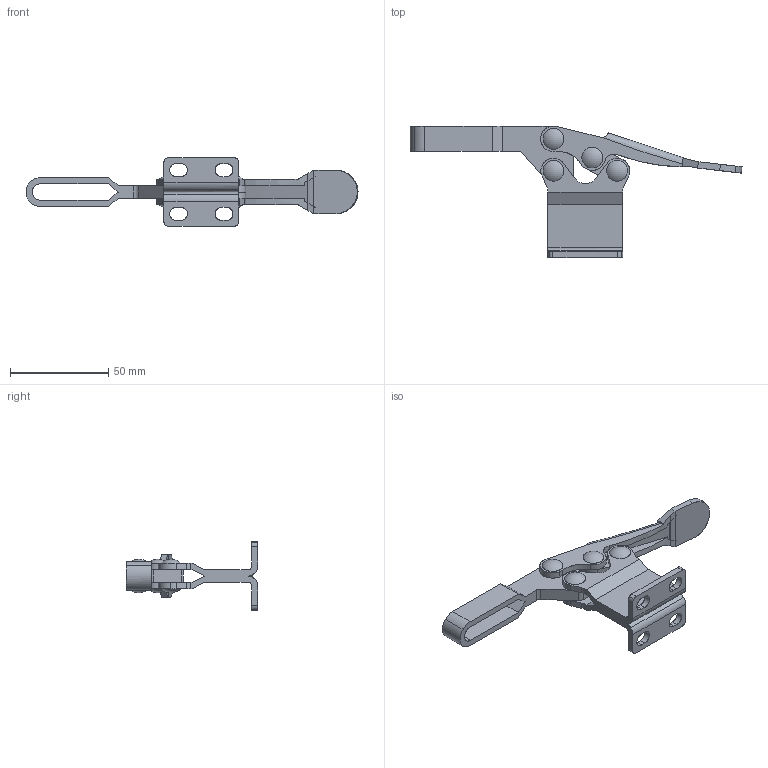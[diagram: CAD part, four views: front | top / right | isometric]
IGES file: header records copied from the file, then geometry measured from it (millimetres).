
Start section: Comment
Global section: file name: 225dhb.igs; native system:  By Spatial Corp.; preprocessor: XPlus PS/IGES 3.0; author: Author; organization: Title; date: 20050217.081845; units: inch
Bounding box: 168.6 x 66.9 x 35 mm (x, y, z)
Surface area: 23914.1 mm2 (no closed solid volume)
Topology: 0 solids, 0 shells, 213 faces, 1162 edges, 1162 vertices
Faces by surface type: revolution 123, extrusion 90
